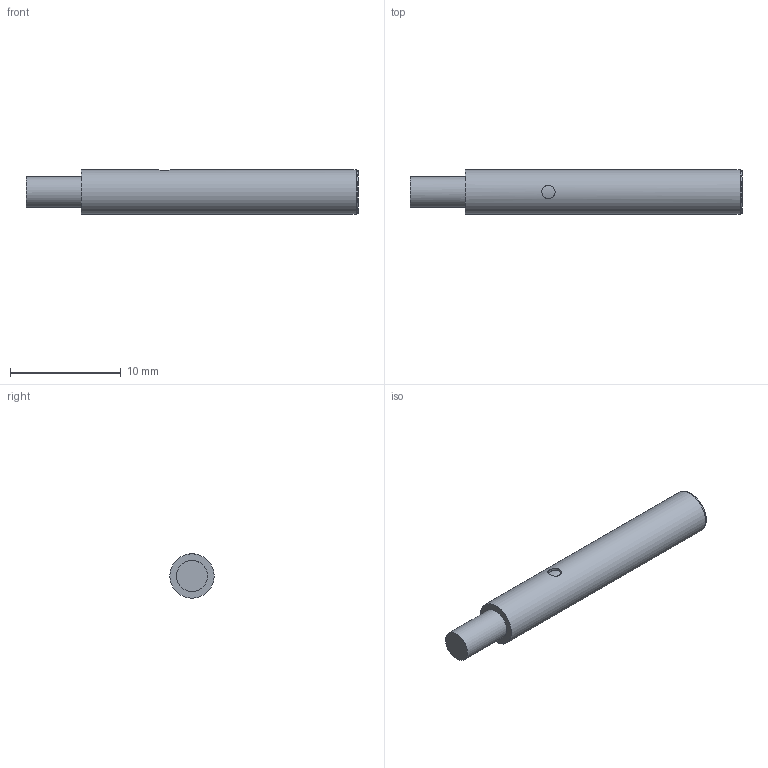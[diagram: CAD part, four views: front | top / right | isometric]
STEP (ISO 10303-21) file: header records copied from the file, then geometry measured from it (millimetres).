
FILE_DESCRIPTION( ( 'Unknown' ), '1' );
FILE_NAME( '//baumernet.org/ch01apps/SolidEdge/Models/Dokumentationen/Induktiv/IxRx 04/Vereinfachte Modelle/Neutralformate/IFRM 04xxxA1_L.stp', 'Unknown', ( 'Unknown' ), ( 'Unknown' ), 'PSStep 14.0', 'Unknown', ' ' );
FILE_SCHEMA( ( 'AUTOMOTIVE_DESIGN { 1 0 10303 214 1 1 1 1 }' ) );
Length unit declared in the file: millimetre
Products named in the file (1): 140335
Bounding box: 29.98 x 4 x 4 mm (x, y, z)
Volume: 344.3 mm3; surface area: 383.5 mm2
Topology: 1 solids, 1 shells, 10 faces, 16 edges, 11 vertices
Faces by surface type: cylinder 5, plane 4, torus 1
Full cylindrical faces by diameter (mm): 1.2 x1, 2.8 x1, 3.9 x1, 4 x1
Entity records: 294 total; most frequent: CARTESIAN_POINT 71, DIRECTION 36, AXIS2_PLACEMENT_3D 18, EDGE_LOOP 18, ORIENTED_EDGE 18, FACE_OUTER_BOUND 15, ADVANCED_FACE 10, EDGE_CURVE 9
